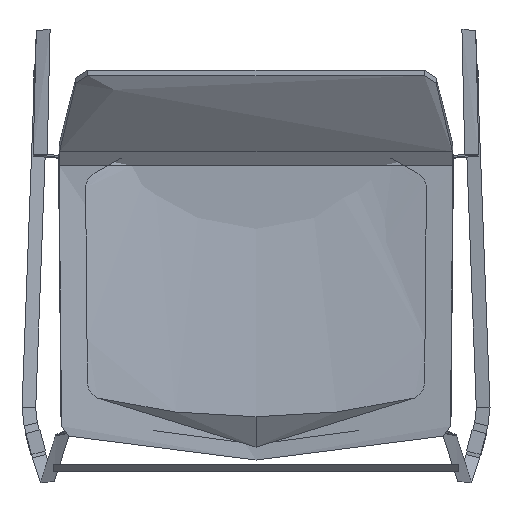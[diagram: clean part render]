
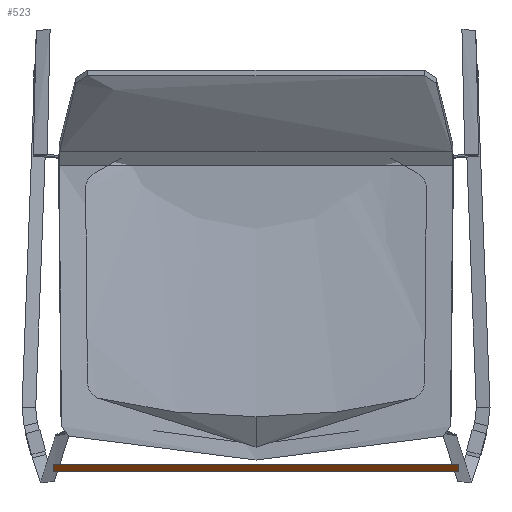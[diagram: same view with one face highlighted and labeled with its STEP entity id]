
A CAD part, top view. The second image highlights one B-rep face of the part: STEP entity #523.
In plain terms, the highlighted free-form (B-spline) face has degree [2, 1] with [5, 2] control points.
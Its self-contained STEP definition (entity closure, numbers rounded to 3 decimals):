
#195=(
BOUNDED_CURVE()
B_SPLINE_CURVE(2,(#9314,#9315,#9316),.UNSPECIFIED.,.F.,.F.)
B_SPLINE_CURVE_WITH_KNOTS((3,3),(0.,12.566),.UNSPECIFIED.)
CURVE()
GEOMETRIC_REPRESENTATION_ITEM()
RATIONAL_B_SPLINE_CURVE((1.,0.707,1.))
REPRESENTATION_ITEM('')
);
#196=(
BOUNDED_CURVE()
B_SPLINE_CURVE(2,(#9317,#9318,#9319),.UNSPECIFIED.,.F.,.F.)
B_SPLINE_CURVE_WITH_KNOTS((3,3),(38.38,50.265),
 .UNSPECIFIED.)
CURVE()
GEOMETRIC_REPRESENTATION_ITEM()
RATIONAL_B_SPLINE_CURVE((1.,0.734,1.))
REPRESENTATION_ITEM('')
);
#197=(
BOUNDED_CURVE()
B_SPLINE_CURVE(2,(#9320,#9321,#9322),.UNSPECIFIED.,.F.,.F.)
B_SPLINE_CURVE_WITH_KNOTS((3,3),(-50.265,-38.38),
 .UNSPECIFIED.)
CURVE()
GEOMETRIC_REPRESENTATION_ITEM()
RATIONAL_B_SPLINE_CURVE((1.,0.734,1.))
REPRESENTATION_ITEM('')
);
#199=(
BOUNDED_CURVE()
B_SPLINE_CURVE(1,(#9330,#9331),.UNSPECIFIED.,.F.,.F.)
B_SPLINE_CURVE_WITH_KNOTS((2,2),(0.,462.695),
 .UNSPECIFIED.)
CURVE()
GEOMETRIC_REPRESENTATION_ITEM()
RATIONAL_B_SPLINE_CURVE((1.,1.))
REPRESENTATION_ITEM('')
);
#200=(
BOUNDED_CURVE()
B_SPLINE_CURVE(1,(#9332,#9333),.UNSPECIFIED.,.F.,.F.)
B_SPLINE_CURVE_WITH_KNOTS((2,2),(0.,462.695),
 .UNSPECIFIED.)
CURVE()
GEOMETRIC_REPRESENTATION_ITEM()
RATIONAL_B_SPLINE_CURVE((1.,1.))
REPRESENTATION_ITEM('')
);
#202=(
BOUNDED_CURVE()
B_SPLINE_CURVE(2,(#9341,#9342,#9343),.UNSPECIFIED.,.F.,.F.)
B_SPLINE_CURVE_WITH_KNOTS((3,3),(-12.566,0.),.UNSPECIFIED.)
CURVE()
GEOMETRIC_REPRESENTATION_ITEM()
RATIONAL_B_SPLINE_CURVE((1.,0.707,1.))
REPRESENTATION_ITEM('')
);
#362=(
BOUNDED_SURFACE()
B_SPLINE_SURFACE(2,1,((#9284,#9285),(#9286,#9287),(#9288,#9289),(#9290,
#9291),(#9292,#9293)),.UNSPECIFIED.,.F.,.F.,.F.)
B_SPLINE_SURFACE_WITH_KNOTS((3,2,3),(2,2),(0.,11.886,24.452),
(0.,462.695),.UNSPECIFIED.)
GEOMETRIC_REPRESENTATION_ITEM()
RATIONAL_B_SPLINE_SURFACE(((0.97,0.97),(0.723,
0.723),(1.,1.),(0.707,0.707),(1.,1.)))
REPRESENTATION_ITEM('')
SURFACE()
);
#523=ADVANCED_FACE('',(#665),#362,.T.);
#665=FACE_OUTER_BOUND('',#807,.T.);
#807=EDGE_LOOP('',(#1287,#1288,#1289,#1290,#1291,#1292));
#1287=ORIENTED_EDGE('',*,*,#1693,.T.);
#1288=ORIENTED_EDGE('',*,*,#1695,.T.);
#1289=ORIENTED_EDGE('',*,*,#1690,.T.);
#1290=ORIENTED_EDGE('',*,*,#1692,.F.);
#1291=ORIENTED_EDGE('',*,*,#1689,.T.);
#1292=ORIENTED_EDGE('',*,*,#1688,.T.);
#1688=EDGE_CURVE('',#2004,#2008,#195,.T.);
#1689=EDGE_CURVE('',#2005,#2004,#196,.T.);
#1690=EDGE_CURVE('',#2006,#2007,#197,.T.);
#1692=EDGE_CURVE('',#2005,#2007,#199,.T.);
#1693=EDGE_CURVE('',#2008,#2009,#200,.T.);
#1695=EDGE_CURVE('',#2009,#2006,#202,.T.);
#2004=VERTEX_POINT('',#9308);
#2005=VERTEX_POINT('',#9309);
#2006=VERTEX_POINT('',#9310);
#2007=VERTEX_POINT('',#9311);
#2008=VERTEX_POINT('',#9312);
#2009=VERTEX_POINT('',#9313);
#9284=CARTESIAN_POINT('',(231.348,-214.405,302.024));
#9285=CARTESIAN_POINT('',(-231.348,-214.405,302.024));
#9286=CARTESIAN_POINT('',(231.348,-221.784,302.599));
#9287=CARTESIAN_POINT('',(-231.348,-221.784,302.599));
#9288=CARTESIAN_POINT('',(231.348,-221.784,310.));
#9289=CARTESIAN_POINT('',(-231.348,-221.784,310.));
#9290=CARTESIAN_POINT('',(231.348,-221.784,318.));
#9291=CARTESIAN_POINT('',(-231.348,-221.784,318.));
#9292=CARTESIAN_POINT('',(231.348,-213.784,318.));
#9293=CARTESIAN_POINT('',(-231.348,-213.784,318.));
#9308=CARTESIAN_POINT('',(231.348,-221.784,310.));
#9309=CARTESIAN_POINT('',(231.348,-214.405,302.024));
#9310=CARTESIAN_POINT('',(-231.348,-221.784,310.));
#9311=CARTESIAN_POINT('',(-231.348,-214.405,302.024));
#9312=CARTESIAN_POINT('',(231.348,-213.784,318.));
#9313=CARTESIAN_POINT('',(-231.348,-213.784,318.));
#9314=CARTESIAN_POINT('',(231.348,-221.784,310.));
#9315=CARTESIAN_POINT('',(231.348,-221.784,318.));
#9316=CARTESIAN_POINT('',(231.348,-213.784,318.));
#9317=CARTESIAN_POINT('',(231.348,-214.405,302.024));
#9318=CARTESIAN_POINT('',(231.348,-221.784,302.599));
#9319=CARTESIAN_POINT('',(231.348,-221.784,310.));
#9320=CARTESIAN_POINT('',(-231.348,-221.784,310.));
#9321=CARTESIAN_POINT('',(-231.348,-221.784,302.599));
#9322=CARTESIAN_POINT('',(-231.348,-214.405,302.024));
#9330=CARTESIAN_POINT('',(231.348,-214.405,302.024));
#9331=CARTESIAN_POINT('',(-231.348,-214.405,302.024));
#9332=CARTESIAN_POINT('',(231.348,-213.784,318.));
#9333=CARTESIAN_POINT('',(-231.348,-213.784,318.));
#9341=CARTESIAN_POINT('',(-231.348,-213.784,318.));
#9342=CARTESIAN_POINT('',(-231.348,-221.784,318.));
#9343=CARTESIAN_POINT('',(-231.348,-221.784,310.));
